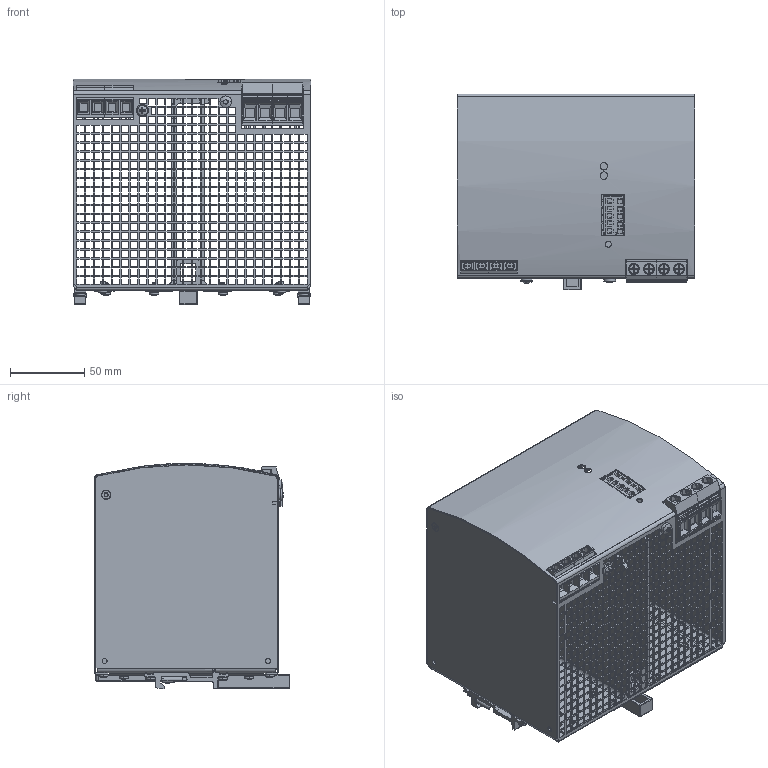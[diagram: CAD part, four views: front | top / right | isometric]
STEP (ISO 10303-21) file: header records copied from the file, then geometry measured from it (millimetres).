
FILE_DESCRIPTION (( 'STEP AP214' ), '1' );
FILE_NAME ('96.149.000.01 PST1500.48_DR 2025_05_21.STEP', '2025-05-21T05:00:58', ( '' ), ( '' ), 'SwSTEP 2.0', 'SolidWorks 2024', '' );
FILE_SCHEMA (( 'AUTOMOTIVE_DESIGN' ));
Length unit declared in the file: millimetre
Products named in the file (22): EW-100.974.03_din rail slider; 19.149.01 R11 2024-05-08; EW-348.900.00-30D; EW-100.975.03_counter bearing; 27.149.900.19 R00 S,A Hutschienenslider 2020_09_23; 19_149_05 R04_2025_05_09; 27.149.16 R03  main housing right 2024_09_17; 27.149.10 R05 housing left 2023_01_19; 27.149.12 R05 Cover 2024_10_09; SCR-LINS-TORX;M4x6;A2;7985_EJOT Delta PT Schraube 30x14 WN5451; 27.149.15 R02 Sliderplate 2024_09_30; SCR-SENK-TORX;M4x6;SCHWARZ; EW-360.910.00-40D; ED-T3006_7500-50; 96.149.000.01 PST1500.48_DR 2025_05_21; 27.149.11 R05 housing right 2023_01_19; ED-4008_7985-10; GEFU DIN7500- PE Torx_M3x6 Li; 27.149.900.20 R00 S; 27.149.13 R04  main housing 2022_09_08; 19_149_04 R07_2025_05_09; EF-DRUFE1-40_pressure spring
Assembly tree (37 placements, depth 3):
  96.149.000.01 PST1500.48_DR 2025_05_21
    27.149.12 R05 Cover 2024_10_09
    27.149.13 R04  main housing 2022_09_08
    27.149.16 R03  main housing right 2024_09_17
    27.149.15 R02 Sliderplate 2024_09_30
    27.149.10 R05 housing left 2023_01_19
    27.149.11 R05 housing right 2023_01_19
    27.149.900.19 R00 S,A Hutschienenslider 2020_09_23
      EW-100.974.03_din rail slider
      EF-DRUFE1-40_pressure spring
      EW-100.975.03_counter bearing
    27.149.900.20 R00 S  x2
      EW-348.900.00-30D
      EW-360.910.00-40D
    19.149.01 R11 2024-05-08
    19_149_04 R07_2025_05_09
    19_149_05 R04_2025_05_09
    ED-T3006_7500-50  x4
    GEFU DIN7500- PE Torx_M3x6 Li  x12
    ED-4008_7985-10
    SCR-SENK-TORX;M4x6;SCHWARZ  x2
    SCR-LINS-TORX;M4x6;A2;7985_EJOT Delta PT Schraube 30x14 WN5451
Bounding box: 160.1 x 131.6 x 151.49 mm (x, y, z)
Volume: 329707.5 mm3; surface area: 351643.3 mm2
Topology: 39 solids, 39 shells, 7104 faces, 20380 edges, 13430 vertices
Faces by surface type: plane 5646, cylinder 1100, torus 141, cone 134, bspline 74, sphere 9
Entity records: 236248 total; most frequent: CARTESIAN_POINT 46987, ORIENTED_EDGE 36990, DIRECTION 32360, EDGE_CURVE 18495, LINE 16594, VECTOR 16594, VERTEX_POINT 12220, EDGE_LOOP 8725
